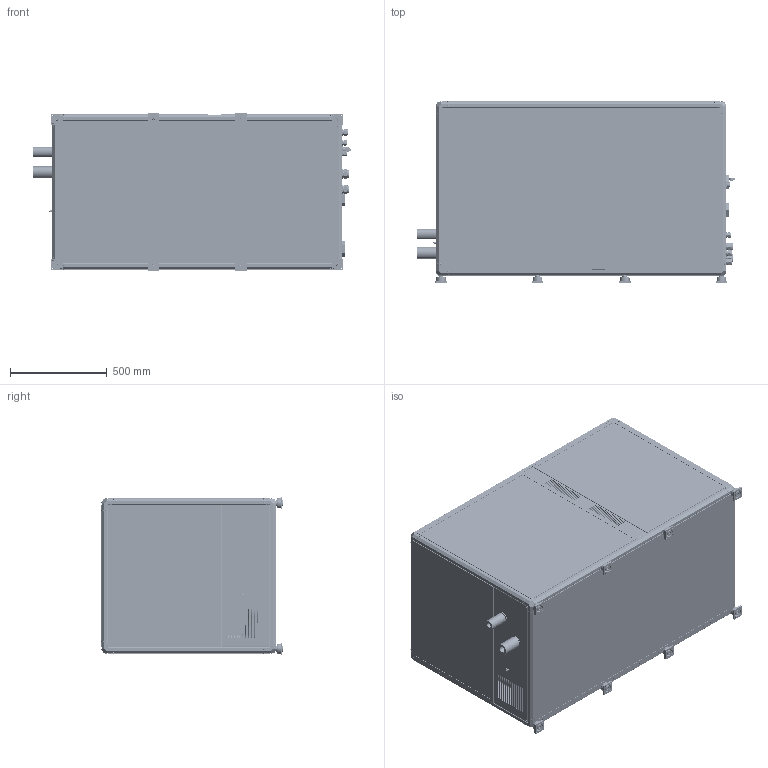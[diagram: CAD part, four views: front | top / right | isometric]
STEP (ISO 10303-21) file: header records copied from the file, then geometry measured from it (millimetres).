
FILE_DESCRIPTION(/* description */ ('VRT120E2-4V - 400VAC USCITE DIRETTE'),/* implementation_level */ '2;1');
FILE_NAME(/* name */ 'VRT-120-E2-001.stp',/* time_stamp */ '2025-01-24T11:23:02+01:00',/* author */ ('CAD 1'),/* organization */ (''),/* preprocessor_version */ 'ST-DEVELOPER v20',/* originating_system */ 'Autodesk Inventor 2024',/* authorisation */ 'D.Z.');
FILE_SCHEMA (('AUTOMOTIVE_DESIGN { 1 0 10303 214 3 1 1 }'));
Products named in the file (102): VRT-120-E2-001; VRT-000000136; VRT-000000335; VRT-000000366; VRT-000000366_01; MIN01-0000079; VRT-000000367; VRT-000000370; VRT-000000402; VRT-000000407; ELT01-0000095; ELT01-0000013; ELT01-0000013_02; ELT01-0000013_01; ELT01-0000013_01_01; ELT01-0000013_01_02; ELT01-0000101; ELT01-0000101_02; ELT01-0000101_01; ELT01-0000101_01_01; ELT01-0000101_01_02; ELT01-0000010; ELT01-0000010_02; ELT01-0000010_01; ELT01-0000010_01_01; ELT01-0000010_01_02; ELT01-0000006; H2O-000000001; VRT-000000059; RAI01-0000036; CMC02-0000003; RAI01-0000037; ELT01-0000060; ELT01-0000054; MIN01-0000010; MIN01-0000052; VRT-000000330; ISL01-0000005-0591-0836; PRF01-0000003-0840; PRF01-0000003-0840_1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
Assembly tree (208 placements, depth 4):
  VRT-120-E2-001
    VRT-000000136  x2
    VRT-000000335
    VRT-000000366
      VRT-000000366_01
      MIN01-0000079  x2
    VRT-000000367
    VRT-000000370
    VRT-000000402
    VRT-000000407
    ELT01-0000095  x2
    ELT01-0000013  x2
      ELT01-0000013_02
      ELT01-0000013_01
        ELT01-0000013_01_01
        ELT01-0000013_01_02
    ELT01-0000101  x4
      ELT01-0000101_02
      ELT01-0000101_01
        ELT01-0000101_01_01
        ELT01-0000101_01_02
    ELT01-0000010  x6
      ELT01-0000010_02
      ELT01-0000010_01
        ELT01-0000010_01_01
        ELT01-0000010_01_02
    ELT01-0000006
    H2O-000000001
    VRT-000000059
      RAI01-0000036
      CMC02-0000003
      RAI01-0000037
      ELT01-0000060
      ELT01-0000054
      MIN01-0000010  x4
      MIN01-0000052  x4
    VRT-000000330
      ISL01-0000005-0591-0836
      PRF01-0000003-0840
      PRF01-0000003-0840_1
      PRF01-0000003-0595
      PRF01-0000003-0595_1
    VRT-000000358
      ISL01-0000005-0736-0586
      PRF01-0000003-0590
      PRF01-0000003-0590_1
      PRF01-0000003-0740
      PRF01-0000003-0740_1
    VRT-000000375
      ISL01-0000005-0771-0836
      PRF01-0000003-0840_2
      PRF01-0000003-0840_3
      PRF01-0000003-0775
      PRF01-0000003-0775_1
    VRT-000000372  x2
      PRF01-0000003-1440_2
      PRF01-0000003-1440_3
      PRF01-0000003-0740_2
      PRF01-0000003-0740_3
      ISL01-0000005-1436-0736
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Bounding box: 1646.85 x 938.6 x 818.17 mm (x, y, z)
Volume: 135905027.7 mm3; surface area: 20637800 mm2
Topology: 257 solids, 258 shells, 8166 faces, 21156 edges, 13874 vertices
Faces by surface type: plane 4371, cylinder 2668, bspline 613, cone 277, sphere 120, torus 117
Full cylindrical faces by diameter (mm): 2.5 x4, 3 x4, 3.2 x8, 3.242 x6, 4.134 x4, 4.2 x84, 4.3 x1, 4.5 x9, 5 x101, 5.3 x8, 5.5 x4, 5.8 x2, 6 x2, 6.3 x1, 6.5 x61, 6.647 x16, 7 x78, 7.6 x1, 8 x16, 8.2 x1, 8.5 x4, 8.8 x2, 9 x8, 9.35 x1, 10 x5, 12 x1, 13 x16, 13.5 x8, 14.5 x6, 14.7 x6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
Entity records: 120337 total; most frequent: CARTESIAN_POINT 26673, ORIENTED_EDGE 18548, DIRECTION 18238, EDGE_CURVE 9274, LINE 6344, VECTOR 6344, VERTEX_POINT 6017, AXIS2_PLACEMENT_3D 5947
